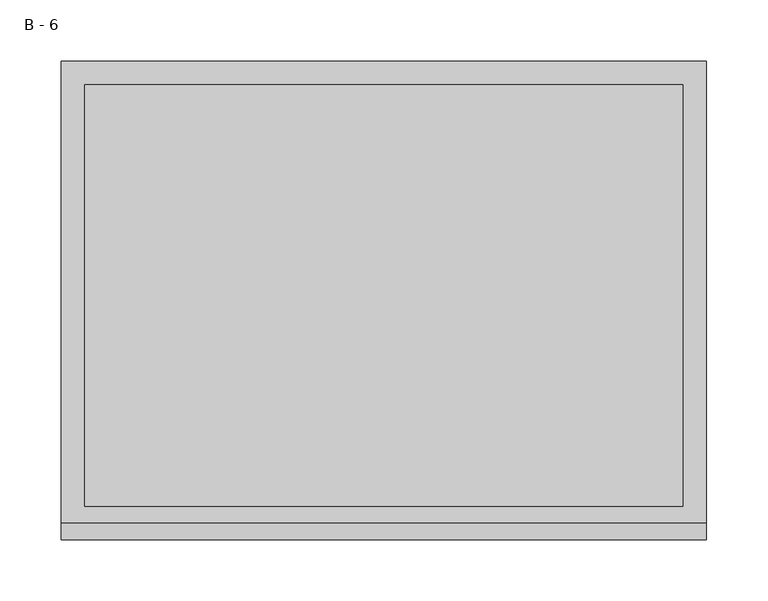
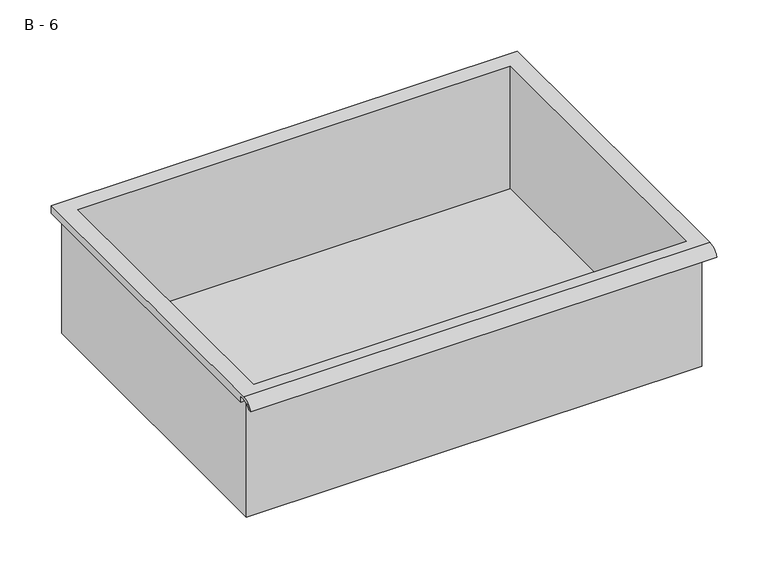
"""IFC4 building model written with IfcOpenShell, lengths in millimetres: furniture geometry, HermanMiller_CoStruc_CO207_Drawer : B - 6."""

from ifc_helpers import new_model, si_unit, frame, origin, place, context, project, spatial, polyline, circle_curve, source, transform, mapped, element, save
from ifc_brep_helpers import plane_surface, cylinder_surface, revolved_surface, advanced_brep


def b_6_86f14c1b(model_context):
    return source(origin(), model_context, "Body", "AdvancedBrep", [
        advanced_brep(
        [(-257.1076517, -176.2125, 408.78252), (257.2423483, -176.2125, 408.78252), (257.2423483, -176.2125, 548.48252), (263.5923483, -176.2125, 548.48252), (263.5923483, -176.2125, 554.7896541), (-263.4576517, -176.2125, 554.7896541), (-263.4576517, -176.2125, 548.48252), (-257.1076517, -176.2125, 548.48252), (257.2423483, 185.7375, 408.78252), (-257.1076517, 185.7375, 408.78252), (-257.1076517, 185.7375, 548.48252), (257.2423483, 185.7375, 548.48252), (263.5923483, -181.6070544, 558.00752), (263.5923483, 195.2625, 558.00752), (-263.4576517, 195.2625, 558.00752), (-263.4576517, -181.6070544, 558.00752), (244.5423483, -168.275, 558.00752), (-244.4076517, -168.275, 558.00752), (-244.4076517, 176.2125, 558.00752), (244.5423483, 176.2125, 558.00752), (263.5923483, -195.2625, 548.48252), (263.5923483, -191.8280601, 548.48252), (263.5923483, -180.4714815, 554.7896541), (263.5923483, 195.2625, 548.48252), (-263.4576517, 195.2625, 548.48252), (-263.4576517, -180.4714815, 554.7896541), (-263.4576517, -191.8280601, 548.48252), (-263.4576517, -195.2625, 548.48252), (-244.4076517, -168.275, 411.8086919), (244.5423483, -168.275, 411.8086919), (244.5423483, 176.2125, 411.8086919), (-244.4076517, 176.2125, 411.8086919)],
        [
            (0, 1),
            (1, 2),
            (2, 3),
            (3, 4),
            (4, 5),
            (5, 6),
            (6, 7),
            (7, 0),
            (8, 9),
            (9, 10),
            (10, 11),
            (11, 8),
            (0, 9),
            (8, 1),
            (11, 2),
            (12, 13),
            (13, 14),
            (14, 15),
            (15, 12),
            (16, 17),
            (17, 18),
            (18, 19),
            (19, 16),
            (7, 10),
            (12, 20, circle_curve(frame((263.5923483, -181.6070544, 543.4565059), z_axis=(1.0, 0.0, 0.0), x_axis=(0.0, 1.0, 0.0)), 14.5510141)),
            (20, 21),
            (21, 22, circle_curve(frame((263.5923483, -181.6070544, 543.4565059), z_axis=(-1.0, 0.0, 0.0), x_axis=(0.0, 1.0, 0.0)), 11.3898979)),
            (22, 4),
            (3, 23),
            (23, 13),
            (14, 24),
            (24, 6),
            (5, 25),
            (25, 26, circle_curve(frame((-263.4576517, -181.6070544, 543.4565059), z_axis=(1.0, 0.0, 0.0), x_axis=(0.0, 1.0, 0.0)), 11.3898979)),
            (26, 27),
            (27, 15, circle_curve(frame((-263.4576517, -181.6070544, 543.4565059), z_axis=(-1.0, 0.0, 0.0), x_axis=(0.0, 1.0, 0.0)), 14.5510141)),
            (27, 20),
            (26, 21),
            (25, 22),
            (24, 23),
            (28, 29),
            (29, 30),
            (30, 31),
            (31, 28),
            (28, 17),
            (16, 29),
            (19, 30),
            (18, 31),
        ],
        [
            plane_surface(frame((257.2423483, -176.2125, 408.78252), z_axis=(0.0, -1.0, 0.0), x_axis=(1.0, 0.0, 0.0))),
            plane_surface(frame((257.2423483, 185.7375, 408.78252), z_axis=(0.0, 1.0, 0.0), x_axis=(-1.0, 0.0, 0.0))),
            plane_surface(frame((-257.1076517, -176.2125, 408.78252), z_axis=(0.0, 0.0, -1.0), x_axis=(0.0, 1.0, 0.0))),
            plane_surface(frame((257.2423483, -176.2125, 408.78252), z_axis=(1.0, 0.0, 0.0), x_axis=(0.0, 1.0, 0.0))),
            plane_surface(frame((257.2423483, -176.2125, 558.00752), z_axis=(0.0, 0.0, 1.0), x_axis=(0.0, 1.0, 0.0))),
            plane_surface(frame((-257.1076517, -176.2125, 558.00752), z_axis=(-1.0, 0.0, 0.0), x_axis=(0.0, 1.0, 0.0))),
            plane_surface(frame((263.5923483, 195.2625, 558.00752), z_axis=(1.0, 0.0, 0.0), x_axis=(0.0, -1.0, 0.0))),
            plane_surface(frame((-263.4576517, 195.2625, 558.00752), z_axis=(-1.0, 0.0, 0.0), x_axis=(0.0, 1.0, 0.0))),
            cylinder_surface(frame((-263.4576517, -181.6070544, 543.4565059), z_axis=(1.0, 0.0, 0.0), x_axis=(0.0, 1.0, 0.0)), 14.5510141),
            plane_surface(frame((263.5923483, -195.2625, 548.48252), z_axis=(0.0, -7.25182118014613e-12, -1.0), x_axis=(-1.0, 0.0, 0.0))),
            revolved_surface(polyline([(-263.4576517, -170.21715650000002, 543.4565059), (263.59234829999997, -170.21715650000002, 543.4565059)]), (-263.4576517, -181.6070544, 543.4565059), (-1.0, 0.0, 0.0)),
            plane_surface(frame((263.5923483, -180.4714815, 554.7896541), z_axis=(0.0, -1.7956755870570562e-11, -1.0), x_axis=(-1.0, 0.0, 0.0))),
            plane_surface(frame((263.5923483, -176.2125, 548.48252), z_axis=(0.0, 0.0, -1.0), x_axis=(-1.0, 0.0, 0.0))),
            plane_surface(frame((263.5923483, 195.2625, 548.48252), z_axis=(0.0, 1.0, 0.0), x_axis=(-1.0, 0.0, 0.0))),
            plane_surface(frame((244.5423483, -168.275, 411.8086919), z_axis=(0.0, 0.0, 1.0), x_axis=(-1.0, 0.0, 0.0))),
            plane_surface(frame((-244.4076517, -168.275, 558.00752), z_axis=(0.0, 1.0, 0.0), x_axis=(0.0, 0.0, -1.0))),
            plane_surface(frame((244.5423483, -168.275, 558.00752), z_axis=(-1.0, 0.0, 0.0), x_axis=(0.0, 0.0, -1.0))),
            plane_surface(frame((244.5423483, 176.2125, 558.00752), z_axis=(0.0, -1.0, 0.0), x_axis=(0.0, 0.0, -1.0))),
            plane_surface(frame((-244.4076517, 176.2125, 558.00752), z_axis=(1.0, 0.0, 0.0), x_axis=(0.0, 0.0, -1.0))),
        ],
        [
            (0, [[1, 2, 3, 4, 5, 6, 7, 8]]),
            (1, [[9, 10, 11, 12]]),
            (2, [[-1, 13, -9, 14]]),
            (3, [[-14, -12, 15, -2]]),
            (4, [[16, 17, 18, 19], [20, 21, 22, 23]]),
            (5, [[-13, -8, 24, -10]]),
            (6, [[-16, 25, 26, 27, 28, -4, 29, 30]]),
            (7, [[31, 32, -6, 33, 34, 35, 36, -18]]),
            (8, [[-25, -19, -36, 37]]),
            (9, [[-26, -37, -35, 38]]),
            (10, [[-27, -38, -34, 39]]),
            (11, [[-28, -39, -33, -5]]),
            (12, [[-29, -3, -15, -11, -24, -7, -32, 40]]),
            (13, [[-30, -40, -31, -17]]),
            (14, [[41, 42, 43, 44]]),
            (15, [[-41, 45, -20, 46]]),
            (16, [[-42, -46, -23, 47]]),
            (17, [[-43, -47, -22, 48]]),
            (18, [[-44, -48, -21, -45]]),
        ],
    ),
    ])


if __name__ == "__main__":
    model = new_model("IFC4")
    model_context = context("Model", 3, world=origin())
    ifc_project = project(units=[si_unit("LENGTHUNIT", "METRE", prefix="MILLI")], contexts=[model_context])
    site = spatial("IfcSite", under=ifc_project)
    building = spatial("IfcBuilding", under=site)
    placement = place(None, origin())
    b_6_shape = b_6_86f14c1b(model_context)
    element("IfcFurniture", 1, ObjectType="HermanMiller_CoStruc_CO207_Drawer : B - 6", at=placement, inside=building, context=model_context, shape_type="MappedRepresentation", body=[
        mapped(b_6_shape, transform((0.0, 0.0, 0.0), x_axis=(1.0, 0.0, 0.0), y_axis=(0.0, 1.0, 0.0), z_axis=(0.0, 0.0, 1.0))),
    ])
    save(model, "model.ifc")
